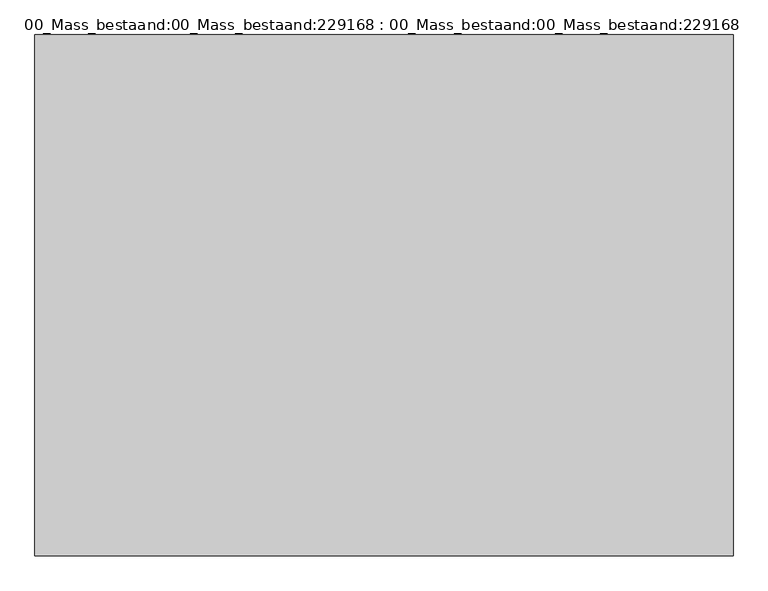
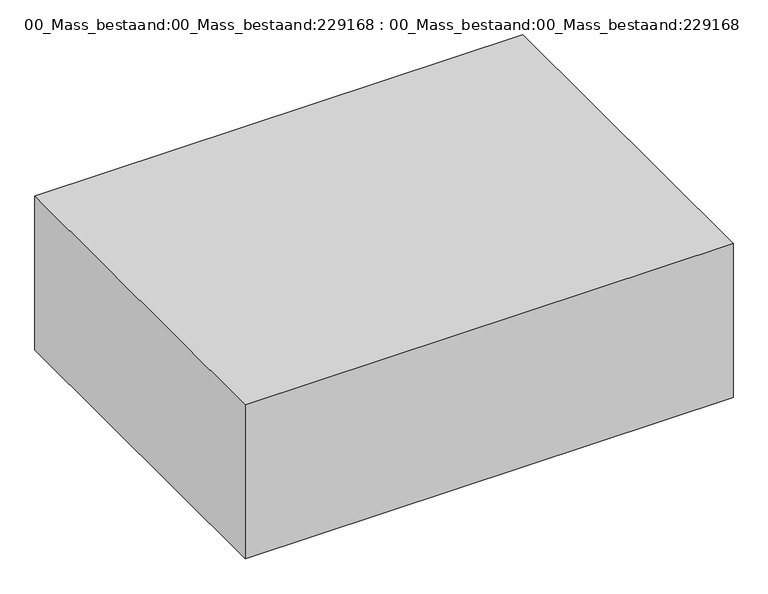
"""IFC4 building model written with IfcOpenShell, lengths in millimetres: proxy geometry, 00_Mass_bestaand:00_Mass_bestaand:229168 : 00_Mass_bestaand:00_Mass_bestaand:229168."""

import ifcopenshell
import ifcopenshell.guid

model = None  # the IFC model being written
_history = None  # IfcOwnerHistory: only IFC2X3 demands one
_inside = {}  # id of a spatial element -> (the spatial element, [elements in it])
_under = {}  # id of a project, library or spatial element -> (it, [spatial elements below it])
_declared = {}  # id of a project -> (the project, [libraries it declares])
_typed = {}  # id of a type object -> (the type object, [elements of that type])
_made_of = {}  # id of a material, layer set ... -> (it, [elements and type objects made of it])


def new_model(schema):
    """Start an empty IFC model of exactly this schema.

    Asked for "IFC4X3", IfcOpenShell would pick the latest addendum, in which some entities
    have other attributes; the version numbers below select the first issue.
    IFC2X3 requires an IfcOwnerHistory on every rooted entity: one is made here for all.
    """
    global model, _history
    if schema == "IFC4X3":
        model = ifcopenshell.file(schema_version=(4, 3, 0, 0))
    else:
        model = ifcopenshell.file(schema=schema)
    _inside.clear()
    _under.clear()
    _declared.clear()
    _typed.clear()
    _made_of.clear()
    _history = None
    if model.schema == "IFC2X3":
        org = make("IfcOrganization", Name="unknown")
        user = make(
            "IfcPersonAndOrganization",
            ThePerson=make("IfcPerson", FamilyName="unknown"),
            TheOrganization=org,
        )
        app = make(
            "IfcApplication",
            ApplicationDeveloper=org,
            Version="unknown",
            ApplicationFullName="unknown",
            ApplicationIdentifier="unknown",
        )
        _history = make(
            "IfcOwnerHistory",
            OwningUser=user,
            OwningApplication=app,
            ChangeAction="ADDED",
            CreationDate=0,
        )
    return model


def make(cls, **values):
    """One entity of the class cls with the attributes given. An attribute that is None is left unset."""
    return model.create_entity(
        cls, **{name: value for name, value in values.items() if value is not None}
    )


def rooted(cls, **values):
    """An entity with a GlobalId (a new one), such as an element, a storey or a relation."""
    return make(cls, GlobalId=ifcopenshell.guid.new(), OwnerHistory=_history, **values)


def si_unit(unit_type, name, prefix=None):
    """IfcSIUnit, for example si_unit("LENGTHUNIT", "METRE", prefix="MILLI")."""
    return make("IfcSIUnit", UnitType=unit_type, Prefix=prefix, Name=name)


def assignment(units):
    """IfcUnitAssignment: the units of a project."""
    return None if units is None else make("IfcUnitAssignment", Units=units)


def point(xyz):
    """IfcCartesianPoint."""
    return None if xyz is None else make("IfcCartesianPoint", Coordinates=xyz)


def direction(xyz):
    """IfcDirection."""
    return None if xyz is None else make("IfcDirection", DirectionRatios=xyz)


def frame(location, z_axis=None, x_axis=None):
    """IfcAxis2Placement3D, a coordinate frame: its origin and axes. An axis left out is left unset."""
    return make(
        "IfcAxis2Placement3D",
        Location=point(location),
        Axis=direction(z_axis),
        RefDirection=direction(x_axis),
    )


def origin():
    """The frame at (0, 0, 0) with its axes left unset."""
    return frame((0.0, 0.0, 0.0))


def origin_with_axes():
    """The frame at (0, 0, 0) with the z axis (0, 0, 1) and the x axis (1, 0, 0) written out."""
    return frame((0.0, 0.0, 0.0), z_axis=(0.0, 0.0, 1.0), x_axis=(1.0, 0.0, 0.0))


def place(relative_to, where):
    """IfcLocalPlacement: puts the frame where relative to a parent placement (None: the world)."""
    return make(
        "IfcLocalPlacement", PlacementRelTo=relative_to, RelativePlacement=where
    )


def context(
    kind, dimensions, precision=None, world=None, true_north=None, identifier=None
):
    """IfcGeometricRepresentationContext, for example the 3D "Model" context."""
    return make(
        "IfcGeometricRepresentationContext",
        ContextIdentifier=identifier,
        ContextType=kind,
        CoordinateSpaceDimension=dimensions,
        Precision=precision,
        WorldCoordinateSystem=world,
        TrueNorth=true_north,
    )


def project(units=None, contexts=None):
    """IfcProject with its units and contexts."""
    return rooted(
        "IfcProject",
        Name="project",
        RepresentationContexts=contexts,
        UnitsInContext=assignment(units),
    )


def spatial(cls, under=None, at=None, **own):
    """A site, building, storey or space (cls), placed at a placement, below another one or the project."""
    s = rooted(cls, ObjectPlacement=at, **own)
    if under is not None:
        _under.setdefault(under.id(), (under, []))[1].append(s)
    return s


def polyline(points):
    """IfcPolyline through the points."""
    return make("IfcPolyline", Points=[point(p) for p in points])


def outline(outer, holes=None, kind="AREA"):
    """IfcArbitraryClosedProfileDef: a profile drawn as a closed curve; with holes, ...WithVoids."""
    if holes is None:
        return make("IfcArbitraryClosedProfileDef", ProfileType=kind, OuterCurve=outer)
    return make(
        "IfcArbitraryProfileDefWithVoids",
        ProfileType=kind,
        OuterCurve=outer,
        InnerCurves=holes,
    )


def extrude(swept, where, along, depth):
    """IfcExtrudedAreaSolid: the profile swept, set in the frame where, extruded along a direction by depth."""
    return make(
        "IfcExtrudedAreaSolid",
        SweptArea=swept,
        Position=where,
        ExtrudedDirection=direction(along),
        Depth=depth,
    )


def shape(context_of_items, identifier, shape_type, items):
    """IfcShapeRepresentation: the items that make up one representation, for example the "Body"."""
    return make(
        "IfcShapeRepresentation",
        ContextOfItems=context_of_items,
        RepresentationIdentifier=identifier,
        RepresentationType=shape_type,
        Items=items,
    )


def source(mapping_origin, context_of_items, identifier, shape_type, items):
    """IfcRepresentationMap: a shape defined once, which mapped items show again and again."""
    return make(
        "IfcRepresentationMap",
        MappingOrigin=mapping_origin,
        MappedRepresentation=shape(context_of_items, identifier, shape_type, items),
    )


def transform(
    local_origin,
    x_axis=None,
    y_axis=None,
    z_axis=None,
    scale=None,
    scale2=None,
    scale3=None,
    uniform=True,
):
    """IfcCartesianTransformationOperator3D, or its non-uniform kind. x_axis, y_axis, z_axis: its Axis1, 2, 3."""
    if uniform:
        return make(
            "IfcCartesianTransformationOperator3D",
            Axis1=direction(x_axis),
            Axis2=direction(y_axis),
            LocalOrigin=point(local_origin),
            Scale=scale,
            Axis3=direction(z_axis),
        )
    return make(
        "IfcCartesianTransformationOperator3DnonUniform",
        Axis1=direction(x_axis),
        Axis2=direction(y_axis),
        LocalOrigin=point(local_origin),
        Scale=scale,
        Axis3=direction(z_axis),
        Scale2=scale2,
        Scale3=scale3,
    )


def mapped(mapping_source, mapping_target):
    """IfcMappedItem: shows the shape of a source again, moved by a transform."""
    return make(
        "IfcMappedItem", MappingSource=mapping_source, MappingTarget=mapping_target
    )


def made_of(thing, what):
    """Note that an element or type object is made of a material, layer set ...; save() writes the relation."""
    if what is not None:
        _made_of.setdefault(what.id(), (what, []))[1].append(thing)
    return thing


def element(
    cls,
    number,
    at=None,
    inside=None,
    cuts=None,
    type_object=None,
    material=None,
    context=None,
    identifier="Body",
    shape_type=None,
    held_by="IfcProductDefinitionShape",
    body=None,
    shapes=None,
    **own,
):
    """One element of the class cls, such as IfcWall. Its Tag is "e" and its number.

    at: its placement. inside: the storey or other place that contains it. cuts: it is an
    opening in that element (IfcRelVoidsElement). A single representation is given by context,
    identifier, shape_type and body (its items); several are given by shapes. held_by: the class
    of the entity that holds the representations. save() writes the other relations.
    """
    e = rooted(cls, Tag="e%d" % number, ObjectPlacement=at, **own)
    if body is not None:
        shapes = [shape(context, identifier, shape_type, body)]
    if shapes is not None:
        e.Representation = make(held_by, Representations=shapes)
    if inside is not None:
        _inside.setdefault(inside.id(), (inside, []))[1].append(e)
    if cuts is not None:
        rooted(
            "IfcRelVoidsElement", RelatingBuildingElement=cuts, RelatedOpeningElement=e
        )
    if type_object is not None:
        _typed.setdefault(type_object.id(), (type_object, []))[1].append(e)
    return made_of(e, material)


def aggregate(whole, parts):
    """IfcRelAggregates: a whole, such as a stair, and the parts it consists of."""
    return rooted("IfcRelAggregates", RelatingObject=whole, RelatedObjects=parts)


def save(model, path):
    """Write the relations noted so far, then the file.

    IfcRelAggregates (storeys below a building ...), IfcRelContainedInSpatialStructure (elements
    in a storey), IfcRelDefinesByType, IfcRelAssociatesMaterial and IfcRelDeclares: one each for
    every whole, place, type object, material and project.
    """
    for whole, parts in _under.values():
        aggregate(whole, parts)
    for where, things in _inside.values():
        rooted(
            "IfcRelContainedInSpatialStructure",
            RelatedElements=things,
            RelatingStructure=where,
        )
    for kind, things in _typed.values():
        rooted("IfcRelDefinesByType", RelatedObjects=things, RelatingType=kind)
    for what, things in _made_of.values():
        rooted("IfcRelAssociatesMaterial", RelatedObjects=things, RelatingMaterial=what)
    for by, libraries in _declared.values():
        rooted("IfcRelDeclares", RelatingContext=by, RelatedDefinitions=libraries)
    model.write(path)


def proxy_00_mass_bestaand_00_mass_bestaand_229168_00_mass_12fab161(model_context):
    return source(origin(), model_context, "Body", "SweptSolid", [
        extrude(outline(polyline([(20515.0516087, 6346.7455253), (20515.0516087, 1866.0501739), (14515.0516087, 1866.0501739), (14515.0516087, 6346.7455253), (20515.0516087, 6346.7455253)])), origin_with_axes(), (0.0, 0.0, 1.0), 2000.0),
    ])


if __name__ == "__main__":
    model = new_model("IFC4")
    model_context = context("Model", 3, world=origin())
    ifc_project = project(units=[si_unit("LENGTHUNIT", "METRE", prefix="MILLI")], contexts=[model_context])
    site = spatial("IfcSite", under=ifc_project)
    building = spatial("IfcBuilding", under=site)
    placement = place(None, origin())
    proxy_00_mass_bestaand_00_mass_bestaand_229168_00_mass_shape = proxy_00_mass_bestaand_00_mass_bestaand_229168_00_mass_12fab161(model_context)
    element("IfcBuildingElementProxy", 1, Name="00_Mass_bestaand:00_Mass_bestaand:229168 : 00_Mass_bestaand:00_Mass_bestaand:229168", ObjectType="00_Mass_bestaand:00_Mass_bestaand:229168 : 00_Mass_bestaand:00_Mass_bestaand:229168", at=placement, inside=building, context=model_context, shape_type="MappedRepresentation", body=[
        mapped(proxy_00_mass_bestaand_00_mass_bestaand_229168_00_mass_shape, transform((0.0, 0.0, 0.0), x_axis=(1.0, 0.0, 0.0), y_axis=(0.0, 1.0, 0.0), z_axis=(0.0, 0.0, 1.0))),
    ])
    save(model, "model.ifc")
